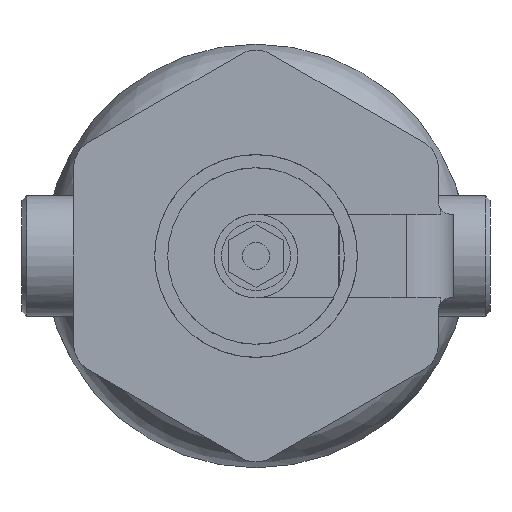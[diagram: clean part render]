
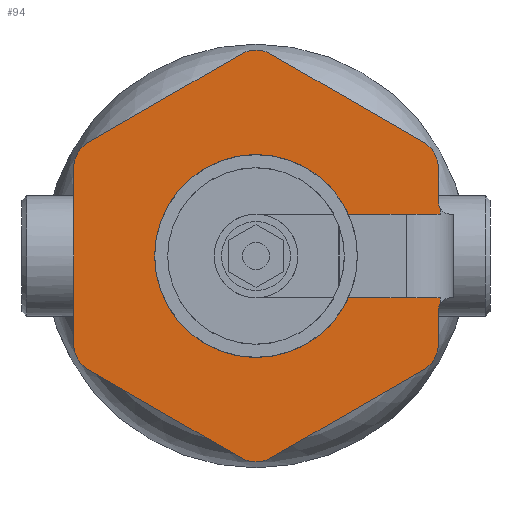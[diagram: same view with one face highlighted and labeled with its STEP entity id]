
A CAD part, front view. The second image highlights one B-rep face of the part: STEP entity #94.
In plain terms, the highlighted planar face has unit normal (0, -1, 0) as drawn and (-1, 0, 0) by its records, which use the part's own axes.
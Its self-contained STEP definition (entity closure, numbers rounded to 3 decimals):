
#94=ADVANCED_FACE('',(#368),#367,.T.);
#367=PLANE('',#1285);
#368=FACE_OUTER_BOUND('',#1286,.T.);
#1282=CARTESIAN_POINT('',(-68.,-95.448,-84.));
#1283=DIRECTION('',(-1.,0.,0.));
#1284=DIRECTION('',(0.,0.,1.));
#1285=AXIS2_PLACEMENT_3D('',#1282,#1283,#1284);
#1286=EDGE_LOOP('',(#1902,#1903,#1904,#1905,#1906,#1907,#1908,#1909,#1910,#1911,#1912,#1913,#1914,#1915,#1916,#1917,#1918,#1919,#1920,#1921,#1922));
#1902=ORIENTED_EDGE('',*,*,#2384,.T.);
#1903=ORIENTED_EDGE('',*,*,#2385,.T.);
#1904=ORIENTED_EDGE('',*,*,#2386,.F.);
#1905=ORIENTED_EDGE('',*,*,#2387,.T.);
#1906=ORIENTED_EDGE('',*,*,#2388,.T.);
#1907=ORIENTED_EDGE('',*,*,#2389,.T.);
#1908=ORIENTED_EDGE('',*,*,#2390,.F.);
#1909=ORIENTED_EDGE('',*,*,#2391,.T.);
#1910=ORIENTED_EDGE('',*,*,#2392,.T.);
#1911=ORIENTED_EDGE('',*,*,#2393,.T.);
#1912=ORIENTED_EDGE('',*,*,#2394,.T.);
#1913=ORIENTED_EDGE('',*,*,#2395,.T.);
#1914=ORIENTED_EDGE('',*,*,#2396,.T.);
#1915=ORIENTED_EDGE('',*,*,#2397,.T.);
#1916=ORIENTED_EDGE('',*,*,#2398,.T.);
#1917=ORIENTED_EDGE('',*,*,#2399,.T.);
#1918=ORIENTED_EDGE('',*,*,#2400,.T.);
#1919=ORIENTED_EDGE('',*,*,#2401,.T.);
#1920=ORIENTED_EDGE('',*,*,#2402,.T.);
#1921=ORIENTED_EDGE('',*,*,#2403,.T.);
#1922=ORIENTED_EDGE('',*,*,#2404,.T.);
#2384=EDGE_CURVE('',#3081,#3082,#3083,.T.);
#2385=EDGE_CURVE('',#3082,#3089,#3090,.T.);
#2386=EDGE_CURVE('',#3096,#3089,#3097,.T.);
#2387=EDGE_CURVE('',#3096,#3103,#3104,.T.);
#2388=EDGE_CURVE('',#3103,#3110,#3111,.T.);
#2389=EDGE_CURVE('',#3110,#3117,#3118,.T.);
#2390=EDGE_CURVE('',#3124,#3117,#3125,.T.);
#2391=EDGE_CURVE('',#3124,#3131,#3132,.T.);
#2392=EDGE_CURVE('',#3131,#3138,#3139,.T.);
#2393=EDGE_CURVE('',#3138,#3145,#3146,.T.);
#2394=EDGE_CURVE('',#3145,#3152,#3153,.T.);
#2395=EDGE_CURVE('',#3152,#3159,#3160,.T.);
#2396=EDGE_CURVE('',#3159,#3166,#3167,.T.);
#2397=EDGE_CURVE('',#3166,#3173,#3174,.T.);
#2398=EDGE_CURVE('',#3173,#3180,#3181,.T.);
#2399=EDGE_CURVE('',#3180,#3187,#3188,.T.);
#2400=EDGE_CURVE('',#3187,#3194,#3195,.T.);
#2401=EDGE_CURVE('',#3194,#3201,#3202,.T.);
#2402=EDGE_CURVE('',#3201,#3208,#3209,.T.);
#2403=EDGE_CURVE('',#3208,#3215,#3216,.T.);
#2404=EDGE_CURVE('',#3215,#3081,#3222,.T.);
#3081=VERTEX_POINT('',#4642);
#3082=VERTEX_POINT('',#4643);
#3083=LINE('',#4644,#4645);
#3089=VERTEX_POINT('',#4647);
#3090=CIRCLE('',#4651,5.);
#3096=VERTEX_POINT('',#4652);
#3097=LINE('',#4653,#4654);
#3103=VERTEX_POINT('',#4656);
#3104=LINE('',#4657,#4658);
#3110=VERTEX_POINT('',#4660);
#3111=CIRCLE('',#4664,41.15);
#3117=VERTEX_POINT('',#4665);
#3118=CIRCLE('',#4669,41.15);
#3124=VERTEX_POINT('',#4670);
#3125=LINE('',#4671,#4672);
#3131=VERTEX_POINT('',#4674);
#3132=LINE('',#4675,#4676);
#3138=VERTEX_POINT('',#4678);
#3139=CIRCLE('',#4682,5.);
#3145=VERTEX_POINT('',#4683);
#3146=LINE('',#4684,#4685);
#3152=VERTEX_POINT('',#4687);
#3153=CIRCLE('',#4691,12.);
#3159=VERTEX_POINT('',#4692);
#3160=LINE('',#4693,#4694);
#3166=VERTEX_POINT('',#4696);
#3167=CIRCLE('',#4700,12.);
#3173=VERTEX_POINT('',#4701);
#3174=LINE('',#4702,#4703);
#3180=VERTEX_POINT('',#4705);
#3181=CIRCLE('',#4709,12.);
#3187=VERTEX_POINT('',#4710);
#3188=LINE('',#4711,#4712);
#3194=VERTEX_POINT('',#4714);
#3195=CIRCLE('',#4718,12.);
#3201=VERTEX_POINT('',#4719);
#3202=LINE('',#4720,#4721);
#3208=VERTEX_POINT('',#4723);
#3209=CIRCLE('',#4727,12.);
#3215=VERTEX_POINT('',#4728);
#3216=LINE('',#4729,#4730);
#3222=CIRCLE('',#4735,12.);
#4642=CARTESIAN_POINT('',(-68.,-35.796,74.));
#4643=CARTESIAN_POINT('',(-68.,-22.,74.));
#4644=CARTESIAN_POINT('',(-68.,-35.796,74.));
#4645=VECTOR('',#4646,13.796);
#4646=DIRECTION('',(0.,1.,0.));
#4647=CARTESIAN_POINT('',(-68.,-19.202,74.856));
#4648=CARTESIAN_POINT('',(-68.,-22.,79.));
#4649=DIRECTION('',(1.,0.,0.));
#4650=DIRECTION('',(0.,0.,1.));
#4651=AXIS2_PLACEMENT_3D('',#4648,#4649,#4650);
#4652=CARTESIAN_POINT('',(-68.,-17.,74.856));
#4653=CARTESIAN_POINT('',(-68.,-17.,74.856));
#4654=VECTOR('',#4655,2.202);
#4655=DIRECTION('',(0.,-1.,0.));
#4656=CARTESIAN_POINT('',(-68.,-17.,37.474));
#4657=CARTESIAN_POINT('',(-68.,-17.,74.856));
#4658=VECTOR('',#4659,37.382);
#4659=DIRECTION('',(0.,0.,-1.));
#4660=CARTESIAN_POINT('',(-68.,0.,-41.15));
#4661=CARTESIAN_POINT('',(-68.,0.,0.));
#4662=DIRECTION('',(1.,0.,0.));
#4663=DIRECTION('',(0.,0.,1.));
#4664=AXIS2_PLACEMENT_3D('',#4661,#4662,#4663);
#4665=CARTESIAN_POINT('',(-68.,17.,37.474));
#4666=CARTESIAN_POINT('',(-68.,0.,0.));
#4667=DIRECTION('',(1.,0.,0.));
#4668=DIRECTION('',(0.,0.,1.));
#4669=AXIS2_PLACEMENT_3D('',#4666,#4667,#4668);
#4670=CARTESIAN_POINT('',(-68.,17.,74.856));
#4671=CARTESIAN_POINT('',(-68.,17.,74.856));
#4672=VECTOR('',#4673,37.382);
#4673=DIRECTION('',(0.,0.,-1.));
#4674=CARTESIAN_POINT('',(-68.,19.202,74.856));
#4675=CARTESIAN_POINT('',(-68.,17.,74.856));
#4676=VECTOR('',#4677,2.202);
#4677=DIRECTION('',(0.,1.,0.));
#4678=CARTESIAN_POINT('',(-68.,22.,74.));
#4679=CARTESIAN_POINT('',(-68.,22.,79.));
#4680=DIRECTION('',(1.,0.,0.));
#4681=DIRECTION('',(0.,0.56,0.829));
#4682=AXIS2_PLACEMENT_3D('',#4679,#4680,#4681);
#4683=CARTESIAN_POINT('',(-68.,35.796,74.));
#4684=CARTESIAN_POINT('',(-68.,22.,74.));
#4685=VECTOR('',#4686,13.796);
#4686=DIRECTION('',(0.,1.,0.));
#4687=CARTESIAN_POINT('',(-68.,46.188,68.));
#4688=CARTESIAN_POINT('',(-68.,35.796,62.));
#4689=DIRECTION('',(-1.,0.,0.));
#4690=DIRECTION('',(0.,0.,-1.));
#4691=AXIS2_PLACEMENT_3D('',#4688,#4689,#4690);
#4692=CARTESIAN_POINT('',(-68.,81.984,6.));
#4693=CARTESIAN_POINT('',(-68.,46.188,68.));
#4694=VECTOR('',#4695,71.591);
#4695=DIRECTION('',(0.,0.5,-0.866));
#4696=CARTESIAN_POINT('',(-68.,81.984,-6.));
#4697=CARTESIAN_POINT('',(-68.,71.591,0.));
#4698=DIRECTION('',(-1.,0.,0.));
#4699=DIRECTION('',(0.,-0.866,-0.5));
#4700=AXIS2_PLACEMENT_3D('',#4697,#4698,#4699);
#4701=CARTESIAN_POINT('',(-68.,46.188,-68.));
#4702=CARTESIAN_POINT('',(-68.,81.984,-6.));
#4703=VECTOR('',#4704,71.591);
#4704=DIRECTION('',(0.,-0.5,-0.866));
#4705=CARTESIAN_POINT('',(-68.,35.796,-74.));
#4706=CARTESIAN_POINT('',(-68.,35.796,-62.));
#4707=DIRECTION('',(-1.,0.,0.));
#4708=DIRECTION('',(0.,-0.866,0.5));
#4709=AXIS2_PLACEMENT_3D('',#4706,#4707,#4708);
#4710=CARTESIAN_POINT('',(-68.,-35.796,-74.));
#4711=CARTESIAN_POINT('',(-68.,35.796,-74.));
#4712=VECTOR('',#4713,71.591);
#4713=DIRECTION('',(0.,-1.,0.));
#4714=CARTESIAN_POINT('',(-68.,-46.188,-68.));
#4715=CARTESIAN_POINT('',(-68.,-35.796,-62.));
#4716=DIRECTION('',(-1.,0.,0.));
#4717=DIRECTION('',(0.,0.,1.));
#4718=AXIS2_PLACEMENT_3D('',#4715,#4716,#4717);
#4719=CARTESIAN_POINT('',(-68.,-81.984,-6.));
#4720=CARTESIAN_POINT('',(-68.,-46.188,-68.));
#4721=VECTOR('',#4722,71.591);
#4722=DIRECTION('',(0.,-0.5,0.866));
#4723=CARTESIAN_POINT('',(-68.,-81.984,6.));
#4724=CARTESIAN_POINT('',(-68.,-71.591,0.));
#4725=DIRECTION('',(-1.,0.,0.));
#4726=DIRECTION('',(0.,0.866,0.5));
#4727=AXIS2_PLACEMENT_3D('',#4724,#4725,#4726);
#4728=CARTESIAN_POINT('',(-68.,-46.188,68.));
#4729=CARTESIAN_POINT('',(-68.,-81.984,6.));
#4730=VECTOR('',#4731,71.591);
#4731=DIRECTION('',(0.,0.5,0.866));
#4732=CARTESIAN_POINT('',(-68.,-35.796,62.));
#4733=DIRECTION('',(-1.,0.,0.));
#4734=DIRECTION('',(0.,0.866,-0.5));
#4735=AXIS2_PLACEMENT_3D('',#4732,#4733,#4734);
